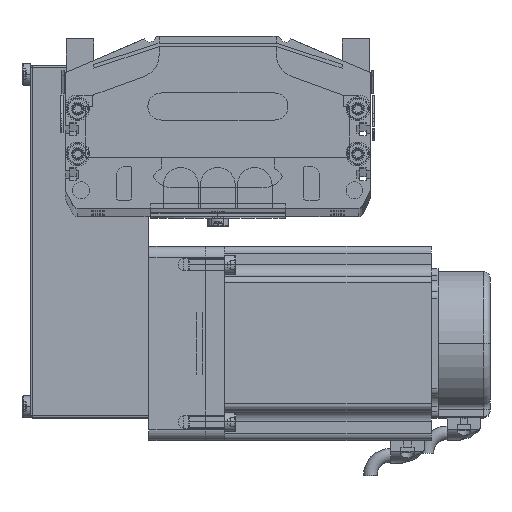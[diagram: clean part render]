
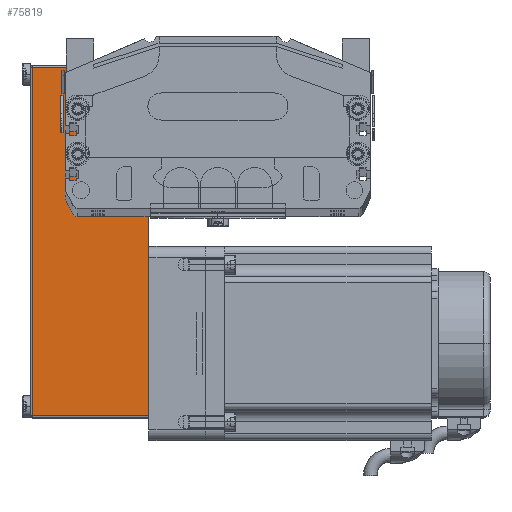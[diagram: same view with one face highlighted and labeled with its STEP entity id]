
A CAD part, top view. The second image highlights one B-rep face of the part: STEP entity #75819.
In plain terms, the highlighted planar face has unit normal (0, 0, 1) as drawn and (0, -1, 0) by its records, which use the part's own axes.
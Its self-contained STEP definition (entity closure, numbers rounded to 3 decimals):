
#12280 = DIRECTION ( 'NONE',  ( 0., 0., 1. ) ) ;
#12281 = VECTOR ( 'NONE', #12280, 1000. ) ;
#12345 = CARTESIAN_POINT ( 'NONE',  ( 31., -40., 52.5 ) ) ;
#12367 = LINE ( 'NONE', #12345, #12281 ) ;
#12466 = DIRECTION ( 'NONE',  ( 0., 0., -1. ) ) ;
#12468 = VECTOR ( 'NONE', #12466, 1000. ) ;
#12469 = CARTESIAN_POINT ( 'NONE',  ( -123.2, -40., 52.5 ) ) ;
#12470 = LINE ( 'NONE', #12469, #12468 ) ;
#12522 = CARTESIAN_POINT ( 'NONE',  ( 31., -40., 51.5 ) ) ;
#12630 = DIRECTION ( 'NONE',  ( -1., 0., 0. ) ) ;
#12631 = VECTOR ( 'NONE', #12630, 1000. ) ;
#12632 = CARTESIAN_POINT ( 'NONE',  ( 32., -40., 51.5 ) ) ;
#12633 = LINE ( 'NONE', #12632, #12631 ) ;
#12639 = CARTESIAN_POINT ( 'NONE',  ( -123.2, -40., 51.5 ) ) ;
#21283 = DIRECTION ( 'NONE',  ( 1., 0., 0. ) ) ;
#21284 = VECTOR ( 'NONE', #21283, 1000. ) ;
#21285 = CARTESIAN_POINT ( 'NONE',  ( 32., -40., 0. ) ) ;
#21286 = LINE ( 'NONE', #21285, #21284 ) ;
#21287 = AXIS2_PLACEMENT_3D ( 'NONE', #21367, #21360, #21359 ) ;
#21292 = PLANE ( 'NONE',  #21287 ) ;
#21359 = DIRECTION ( 'NONE',  ( -1., 0., 0. ) ) ;
#21360 = DIRECTION ( 'NONE',  ( 0., 1., 0. ) ) ;
#21367 = CARTESIAN_POINT ( 'NONE',  ( 32., -40., 52.5 ) ) ;
#21369 = FACE_OUTER_BOUND ( 'NONE', #75791, .T. ) ;
#23692 = CARTESIAN_POINT ( 'NONE',  ( -123.2, -40., 0. ) ) ;
#60924 = CARTESIAN_POINT ( 'NONE',  ( 31., -40., 0. ) ) ;
#75791 = EDGE_LOOP ( 'NONE', ( #75795, #75797, #76462, #76410 ) ) ;
#75795 = ORIENTED_EDGE ( 'NONE', *, *, #75811, .T. ) ;
#75797 = ORIENTED_EDGE ( 'NONE', *, *, #76202, .T. ) ;
#75811 = EDGE_CURVE ( 'NONE', #75920, #77424, #21286, .T. ) ;
#75819 = ADVANCED_FACE ( 'NONE', ( #21369 ), #21292, .F. ) ;
#75920 = VERTEX_POINT ( 'NONE', #23692 ) ;
#76202 = EDGE_CURVE ( 'NONE', #77424, #76326, #12367, .T. ) ;
#76279 = EDGE_CURVE ( 'NONE', #76426, #75920, #12470, .T. ) ;
#76326 = VERTEX_POINT ( 'NONE', #12522 ) ;
#76410 = ORIENTED_EDGE ( 'NONE', *, *, #76279, .T. ) ;
#76425 = EDGE_CURVE ( 'NONE', #76326, #76426, #12633, .T. ) ;
#76426 = VERTEX_POINT ( 'NONE', #12639 ) ;
#76462 = ORIENTED_EDGE ( 'NONE', *, *, #76425, .T. ) ;
#77424 = VERTEX_POINT ( 'NONE', #60924 ) ;
